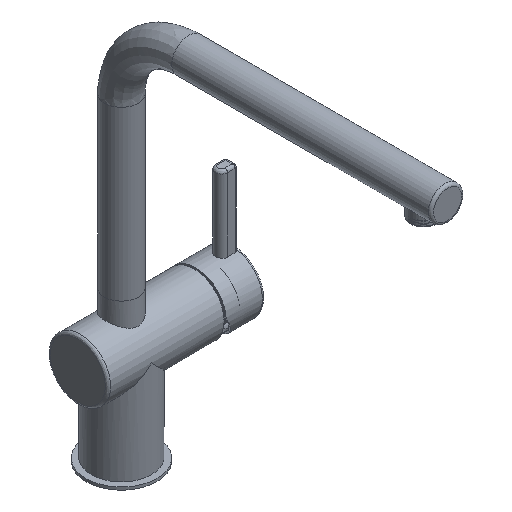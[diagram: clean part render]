
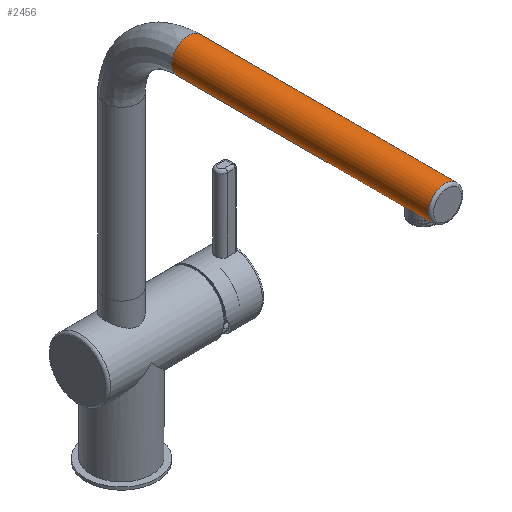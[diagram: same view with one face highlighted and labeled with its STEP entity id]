
A CAD part, isometric view. The second image highlights one B-rep face of the part: STEP entity #2456.
In plain terms, the highlighted cylindrical face has radius 12.5 mm (diameter 25 mm), a full revolution.
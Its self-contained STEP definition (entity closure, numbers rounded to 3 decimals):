
#395=TRIMMED_CURVE($,#1206,(#38741),(#38742),.T.,.CARTESIAN.);
#396=TRIMMED_CURVE($,#1207,(#38746),(#38747),.T.,.CARTESIAN.);
#413=TRIMMED_CURVE($,#1234,(#39521),(#39522),.T.,.CARTESIAN.);
#416=TRIMMED_CURVE($,#1237,(#39530),(#39531),.T.,.CARTESIAN.);
#1206=CIRCLE('',#16944,12.5);
#1207=CIRCLE('',#16945,12.5);
#1234=CIRCLE('',#16972,12.5);
#1237=CIRCLE('',#16975,12.5);
#1603=CYLINDRICAL_SURFACE('',#16915,12.5);
#2456=ADVANCED_FACE('',(#3371,#2708),#1603,.T.);
#2708=FACE_BOUND('',#4251,.T.);
#3371=FACE_OUTER_BOUND('',#4250,.T.);
#4250=EDGE_LOOP('',(#7652,#7653,#7654,#7655,#7656,#7657));
#4251=EDGE_LOOP('',(#7658,#7659));
#7652=ORIENTED_EDGE('',*,*,#10340,.F.);
#7653=ORIENTED_EDGE('',*,*,#10343,.F.);
#7654=ORIENTED_EDGE('',*,*,#10254,.T.);
#7655=ORIENTED_EDGE('',*,*,#10253,.T.);
#7656=ORIENTED_EDGE('',*,*,#10255,.T.);
#7657=ORIENTED_EDGE('',*,*,#10254,.F.);
#7658=ORIENTED_EDGE('',*,*,#10285,.T.);
#7659=ORIENTED_EDGE('',*,*,#10282,.T.);
#10253=EDGE_CURVE('',#13216,#13212,#395,.T.);
#10254=EDGE_CURVE('',#13214,#13216,#11924,.T.);
#10255=EDGE_CURVE('',#13212,#13216,#396,.T.);
#10282=EDGE_CURVE('',#13237,#13215,#11945,.T.);
#10285=EDGE_CURVE('',#13215,#13237,#11947,.T.);
#10340=EDGE_CURVE('',#13276,#13214,#413,.T.);
#10343=EDGE_CURVE('',#13214,#13276,#416,.T.);
#11924=B_SPLINE_CURVE_WITH_KNOTS('',1,(#38743,#38744),.UNSPECIFIED.,.F.,
 .F.,(2,2),(19.22,210.22),.UNSPECIFIED.);
#11945=B_SPLINE_CURVE_WITH_KNOTS('',3,(#39070,#39071,#39072,#39073,#39074,
#39075,#39076,#39077,#39078,#39079,#39080,#39081,#39082,#39083),
 .UNSPECIFIED.,.F.,.F.,(4,2,2,2,2,2,4),(-84.599,-82.52,
-80.44,-76.282,-71.981,-69.83,
-67.679),.UNSPECIFIED.);
#11947=B_SPLINE_CURVE_WITH_KNOTS('',3,(#39087,#39088,#39089,#39090,#39091,
#39092,#39093,#39094,#39095,#39096,#39097,#39098,#39099,#39100,#39101,#39102,
#39103,#39104,#39105,#39106,#39107,#39108,#39109,#39110,#39111,#39112,#39113,
#39114,#39115,#39116,#39117,#39118,#39119,#39120,#39121,#39122,#39123,#39124),
 .UNSPECIFIED.,.F.,.F.,(4,2,2,2,2,2,2,2,2,2,2,2,2,2,2,2,2,2,4),(-67.679,
-65.529,-63.378,-59.077,-54.918,
-52.839,-50.759,-48.68,-46.601,
-42.442,-38.141,-35.99,-33.84,
-31.689,-29.538,-25.237,-21.079,
-18.999,-16.92),.UNSPECIFIED.);
#13212=VERTEX_POINT('',#38665);
#13214=VERTEX_POINT('',#38667);
#13215=VERTEX_POINT('',#38668);
#13216=VERTEX_POINT('',#38669);
#13237=VERTEX_POINT('',#38690);
#13276=VERTEX_POINT('',#38729);
#16915=AXIS2_PLACEMENT_3D('',#37797,#18679,$);
#16944=AXIS2_PLACEMENT_3D($,#38740,#18711,#18712);
#16945=AXIS2_PLACEMENT_3D($,#38745,#18713,#18714);
#16972=AXIS2_PLACEMENT_3D($,#39520,#18767,#18768);
#16975=AXIS2_PLACEMENT_3D($,#39529,#18773,#18774);
#18679=DIRECTION('',(0.,-1.,0.));
#18711=DIRECTION('',(0.,1.,0.));
#18712=DIRECTION('',(1.,0.,0.));
#18713=DIRECTION('',(0.,1.,0.));
#18714=DIRECTION('',(0.,0.,-1.));
#18767=DIRECTION('',(0.,1.,0.));
#18768=DIRECTION('',(0.,0.,1.));
#18773=DIRECTION('',(0.,1.,0.));
#18774=DIRECTION('',(1.,0.,0.));
#37797=CARTESIAN_POINT('',(0.,-145.5,175.));
#38665=CARTESIAN_POINT('',(0.,-241.,162.5));
#38667=CARTESIAN_POINT('',(12.5,-50.,175.));
#38668=CARTESIAN_POINT('',(10.1,-225.,167.635));
#38669=CARTESIAN_POINT('',(12.5,-241.,175.));
#38690=CARTESIAN_POINT('',(0.,-235.1,162.5));
#38729=CARTESIAN_POINT('',(0.,-50.,187.5));
#38740=CARTESIAN_POINT('',(0.,-241.,175.));
#38741=CARTESIAN_POINT('',(12.5,-241.,175.));
#38742=CARTESIAN_POINT('',(0.,-241.,162.5));
#38743=CARTESIAN_POINT('',(12.5,-50.,175.));
#38744=CARTESIAN_POINT('',(12.5,-241.,175.));
#38745=CARTESIAN_POINT('',(0.,-241.,175.));
#38746=CARTESIAN_POINT('',(0.,-241.,162.5));
#38747=CARTESIAN_POINT('',(12.5,-241.,175.));
#39070=CARTESIAN_POINT('',(0.,-235.1,162.5));
#39071=CARTESIAN_POINT('',(0.67,-235.1,162.5));
#39072=CARTESIAN_POINT('',(1.352,-235.032,162.555));
#39073=CARTESIAN_POINT('',(2.689,-234.759,162.774));
#39074=CARTESIAN_POINT('',(3.344,-234.554,162.938));
#39075=CARTESIAN_POINT('',(5.2,-233.762,163.558));
#39076=CARTESIAN_POINT('',(6.292,-232.992,164.149));
#39077=CARTESIAN_POINT('',(8.021,-231.263,165.353));
#39078=CARTESIAN_POINT('',(8.776,-230.171,166.065));
#39079=CARTESIAN_POINT('',(9.553,-228.345,166.929));
#39080=CARTESIAN_POINT('',(9.755,-227.704,167.181));
#39081=CARTESIAN_POINT('',(10.028,-226.378,167.535));
#39082=CARTESIAN_POINT('',(10.1,-225.693,167.635));
#39083=CARTESIAN_POINT('',(10.1,-225.,167.635));
#39087=CARTESIAN_POINT('',(10.1,-225.,167.635));
#39088=CARTESIAN_POINT('',(10.1,-224.307,167.635));
#39089=CARTESIAN_POINT('',(10.028,-223.622,167.535));
#39090=CARTESIAN_POINT('',(9.755,-222.296,167.181));
#39091=CARTESIAN_POINT('',(9.553,-221.655,166.929));
#39092=CARTESIAN_POINT('',(8.776,-219.829,166.065));
#39093=CARTESIAN_POINT('',(8.021,-218.737,165.353));
#39094=CARTESIAN_POINT('',(6.292,-217.008,164.149));
#39095=CARTESIAN_POINT('',(5.2,-216.238,163.558));
#39096=CARTESIAN_POINT('',(3.344,-215.446,162.938));
#39097=CARTESIAN_POINT('',(2.689,-215.241,162.774));
#39098=CARTESIAN_POINT('',(1.352,-214.968,162.555));
#39099=CARTESIAN_POINT('',(0.67,-214.9,162.5));
#39100=CARTESIAN_POINT('',(-0.67,-214.9,162.5));
#39101=CARTESIAN_POINT('',(-1.352,-214.968,162.555));
#39102=CARTESIAN_POINT('',(-2.689,-215.241,162.774));
#39103=CARTESIAN_POINT('',(-3.344,-215.446,162.938));
#39104=CARTESIAN_POINT('',(-5.2,-216.238,163.558));
#39105=CARTESIAN_POINT('',(-6.292,-217.008,164.149));
#39106=CARTESIAN_POINT('',(-8.021,-218.737,165.353));
#39107=CARTESIAN_POINT('',(-8.776,-219.829,166.065));
#39108=CARTESIAN_POINT('',(-9.553,-221.655,166.929));
#39109=CARTESIAN_POINT('',(-9.755,-222.296,167.181));
#39110=CARTESIAN_POINT('',(-10.028,-223.622,167.535));
#39111=CARTESIAN_POINT('',(-10.1,-224.307,167.635));
#39112=CARTESIAN_POINT('',(-10.1,-225.693,167.635));
#39113=CARTESIAN_POINT('',(-10.028,-226.378,167.535));
#39114=CARTESIAN_POINT('',(-9.755,-227.704,167.181));
#39115=CARTESIAN_POINT('',(-9.553,-228.345,166.929));
#39116=CARTESIAN_POINT('',(-8.776,-230.171,166.065));
#39117=CARTESIAN_POINT('',(-8.021,-231.263,165.353));
#39118=CARTESIAN_POINT('',(-6.292,-232.992,164.149));
#39119=CARTESIAN_POINT('',(-5.2,-233.762,163.558));
#39120=CARTESIAN_POINT('',(-3.344,-234.554,162.938));
#39121=CARTESIAN_POINT('',(-2.689,-234.759,162.774));
#39122=CARTESIAN_POINT('',(-1.352,-235.032,162.555));
#39123=CARTESIAN_POINT('',(-0.67,-235.1,162.5));
#39124=CARTESIAN_POINT('',(0.,-235.1,162.5));
#39520=CARTESIAN_POINT('',(0.,-50.,175.));
#39521=CARTESIAN_POINT('',(0.,-50.,187.5));
#39522=CARTESIAN_POINT('',(12.5,-50.,175.));
#39529=CARTESIAN_POINT('',(0.,-50.,175.));
#39530=CARTESIAN_POINT('',(12.5,-50.,175.));
#39531=CARTESIAN_POINT('',(0.,-50.,187.5));
